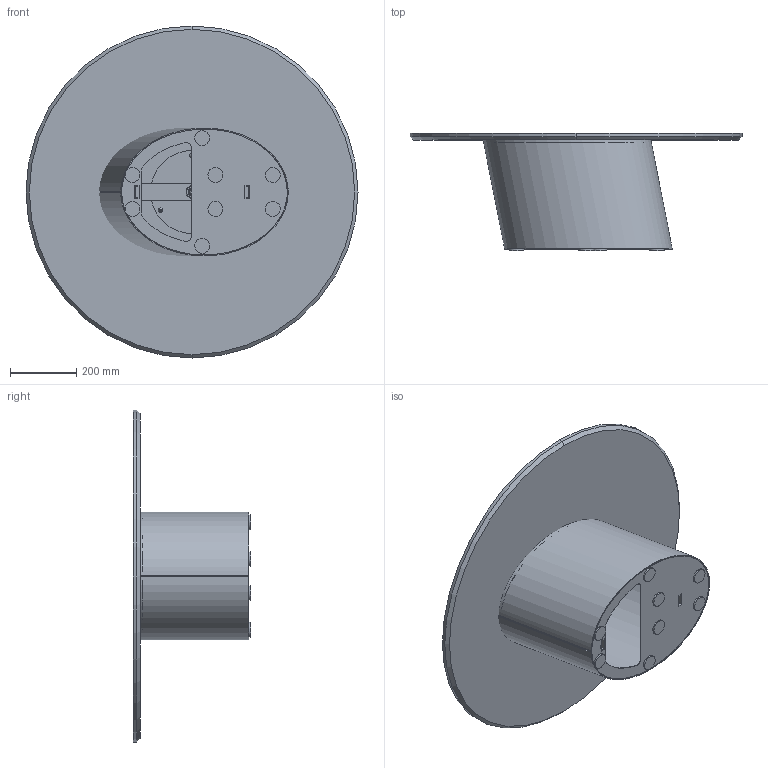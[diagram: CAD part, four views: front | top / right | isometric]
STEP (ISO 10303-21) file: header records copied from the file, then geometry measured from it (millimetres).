
FILE_DESCRIPTION (( 'STEP AP203' ), '1' );
FILE_NAME ('D103M.STEP', '2024-08-07T11:19:53', ( '' ), ( '' ), 'SwSTEP 2.0', 'SolidWorks 2022', '' );
FILE_SCHEMA (( 'CONFIG_CONTROL_DESIGN' ));
Length unit declared in the file: millimetre
Products named in the file (9): Parte2^Dxxxx-00-DORADO LOW; D103M; P0000005-00-FILETTO M24 CON FORO H.20mm; M8xXXmm_M8x24mm; M8xXXmm_M8x20mm; P0000003-00-STAFFA DI FISSAGGIO DIAMETRO 250_P0000003-250mm normale; Parte matrice basamento DORADO LOW H350_Default<A macchina>; M0XMXX-00-Piani Rotondi in marmo_D.100 CON PIASTRA; M0X-00- D. piani marmo_D.1000
Assembly tree (17 placements, depth 3):
  D103M
    Parte matrice basamento DORADO LOW H350_Default<A macchina>
    Parte2^Dxxxx-00-DORADO LOW  x8
    M0XMXX-00-Piani Rotondi in marmo_D.100 CON PIASTRA
      M0X-00- D. piani marmo_D.1000
      P0000003-00-STAFFA DI FISSAGGIO DIAMETRO 250_P0000003-250mm normale
      M8xXXmm_M8x24mm
      P0000005-00-FILETTO M24 CON FORO H.20mm
      M8xXXmm_M8x20mm  x3
Bounding box: 1000 x 353 x 1000 mm (x, y, z)
Volume: 17791422.8 mm3; surface area: 3184610.3 mm2
Topology: 22 solids, 22 shells, 357 faces, 843 edges, 522 vertices
Faces by surface type: plane 142, cylinder 120, cone 62, bspline 17, torus 16
Entity records: 14227 total; most frequent: CARTESIAN_POINT 6912, ORIENTED_EDGE 1290, DIRECTION 1253, EDGE_CURVE 645, AXIS2_PLACEMENT_3D 479, VERTEX_POINT 414, EDGE_LOOP 301, VECTOR 295
